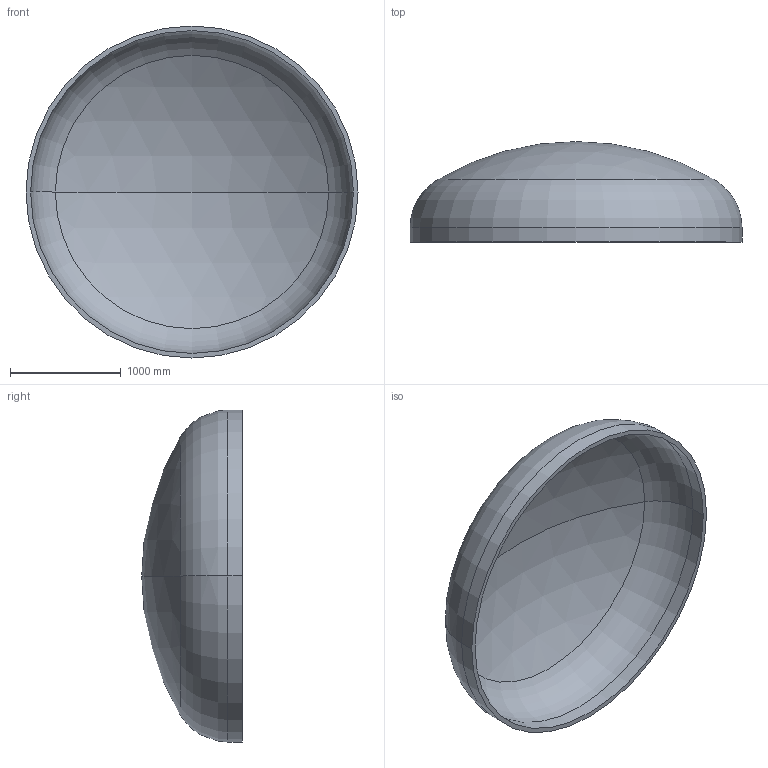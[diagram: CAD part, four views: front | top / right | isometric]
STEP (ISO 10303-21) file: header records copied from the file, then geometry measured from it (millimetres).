
FILE_DESCRIPTION (( 'STEP AP203' ), '1' );
FILE_NAME ('DIN 28013 Korbbogenform_-_Boden DIN 28013 - 3000 x 130 - I - s=42.step', '2016-07-01T17:47:12', ( '' ), ( '' ), 'SwSTEP 2.0', 'SolidWorks 2013', '' );
FILE_SCHEMA (( 'CONFIG_CONTROL_DESIGN' ));
Length unit declared in the file: millimetre
Products named in the file (1): DIN 28013 Korbbogenform_-_Boden DIN 28013 - 3000 x 130 - I - s=42
Bounding box: 3000 x 908.39 x 3000 mm (x, y, z)
Volume: 454034033.2 mm3; surface area: 22014654.1 mm2
Topology: 1 solids, 1 shells, 13 faces, 24 edges, 14 vertices
Faces by surface type: torus 4, cylinder 4, sphere 4, plane 1
Entity records: 407 total; most frequent: DIRECTION 72, CARTESIAN_POINT 52, ORIENTED_EDGE 48, AXIS2_PLACEMENT_3D 34, EDGE_CURVE 24, CIRCLE 20, VERTEX_POINT 14, EDGE_LOOP 14
